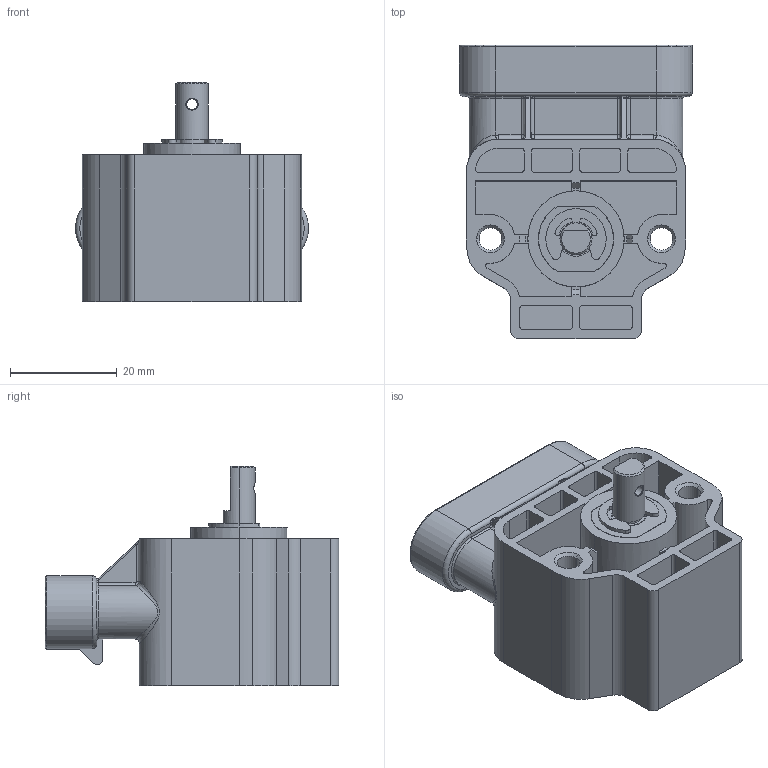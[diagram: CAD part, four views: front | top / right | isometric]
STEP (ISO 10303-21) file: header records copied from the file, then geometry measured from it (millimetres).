
FILE_DESCRIPTION (( 'STEP AP203' ), '1' );
FILE_NAME ('GRA 6P AMP.STEP', '2016-02-02T11:28:21', ( '' ), ( '' ), 'SwSTEP 2.0', 'SolidWorks 2015', '' );
FILE_SCHEMA (( 'CONFIG_CONTROL_DESIGN' ));
Length unit declared in the file: millimetre
Products named in the file (1): GRA 6P AMP
Bounding box: 43.6 x 54.9 x 41.07 mm (x, y, z)
Volume: 31785.5 mm3; surface area: 18814.3 mm2
Topology: 11 solids, 11 shells, 506 faces, 1294 edges, 838 vertices
Faces by surface type: plane 248, cylinder 153, bspline 65, torus 22, cone 18
Entity records: 19657 total; most frequent: CARTESIAN_POINT 7501, ORIENTED_EDGE 2588, DIRECTION 2389, EDGE_CURVE 1294, VERTEX_POINT 838, AXIS2_PLACEMENT_3D 803, LINE 783, VECTOR 783
